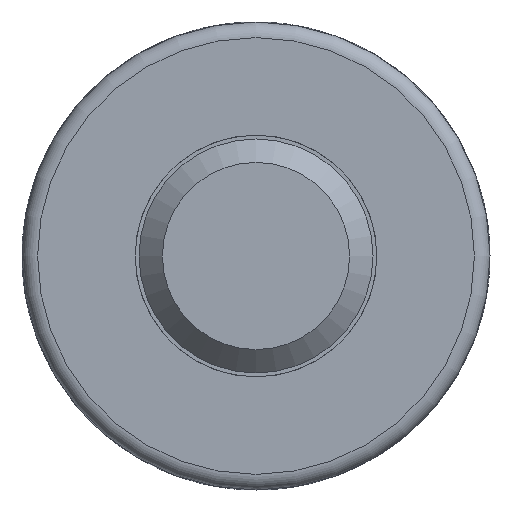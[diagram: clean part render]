
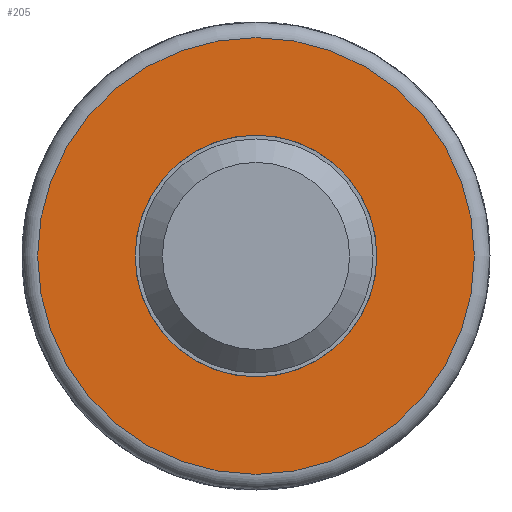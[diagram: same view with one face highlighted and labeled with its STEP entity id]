
A CAD part, front view. The second image highlights one B-rep face of the part: STEP entity #205.
In plain terms, the highlighted planar face has unit normal (0, -1, 0).
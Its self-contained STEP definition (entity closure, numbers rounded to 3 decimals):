
#124=FACE_BOUND('',#333,.T.);
#125=FACE_BOUND('',#334,.T.);
#164=CIRCLE('',#1062,1.55);
#171=CIRCLE('',#1072,2.8);
#205=ADVANCED_FACE('',(#124,#125),#251,.F.);
#251=PLANE('',#1073);
#333=EDGE_LOOP('',(#621));
#334=EDGE_LOOP('',(#622));
#621=ORIENTED_EDGE('',*,*,#947,.T.);
#622=ORIENTED_EDGE('',*,*,#940,.F.);
#828=VERTEX_POINT('',#2455);
#829=VERTEX_POINT('',#2466);
#940=EDGE_CURVE('',#828,#828,#164,.T.);
#947=EDGE_CURVE('',#829,#829,#171,.T.);
#1062=AXIS2_PLACEMENT_3D('',#2454,#1203,#1204);
#1072=AXIS2_PLACEMENT_3D('',#2465,#1223,#1224);
#1073=AXIS2_PLACEMENT_3D('',#2467,#1225,#1226);
#1203=DIRECTION('',(0.,-1.,0.));
#1204=DIRECTION('',(-1.,0.,0.));
#1223=DIRECTION('',(0.,-1.,0.));
#1224=DIRECTION('',(-1.,0.,0.));
#1225=DIRECTION('',(0.,1.,0.));
#1226=DIRECTION('',(1.,0.,0.));
#2454=CARTESIAN_POINT('',(-23.01,-56.,0.));
#2455=CARTESIAN_POINT('',(-24.56,-56.,0.));
#2465=CARTESIAN_POINT('',(-23.01,-56.,0.));
#2466=CARTESIAN_POINT('',(-25.81,-56.,0.));
#2467=CARTESIAN_POINT('',(-20.02,-56.,0.));
